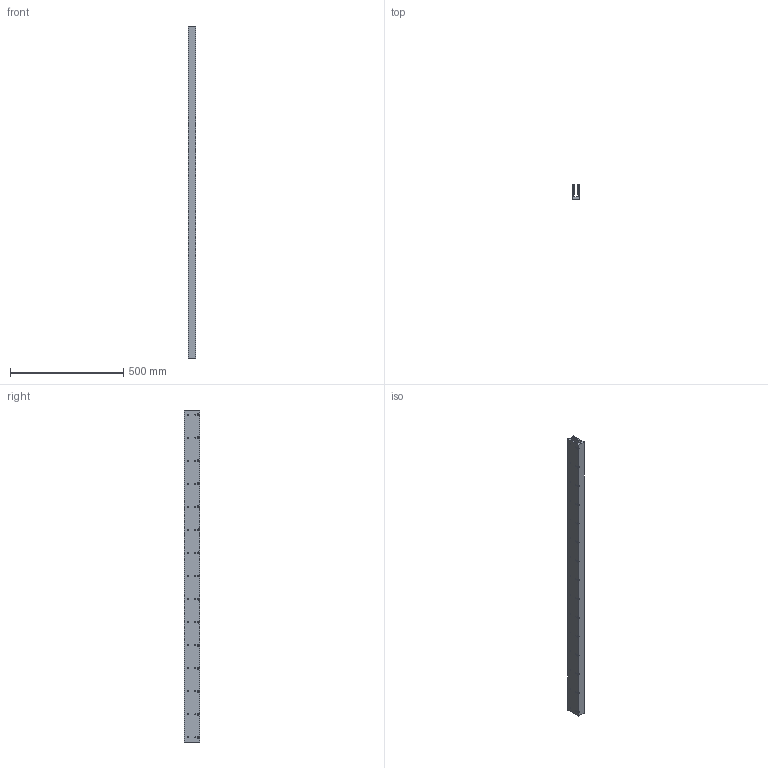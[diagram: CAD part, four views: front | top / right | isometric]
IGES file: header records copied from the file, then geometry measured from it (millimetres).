
Global section: file name: No Iges File Name specified; native system: Autodesk Inventor 2009; preprocessor: AutoDesk Inventor Iges Exporter R2009; author: je17857; date: 20091116.111737; units: inch
Bounding box: 34.29 x 67.31 x 1463.04 mm (x, y, z)
Volume: 2186581.6 mm3; surface area: 550476.9 mm2
Topology: 1 solids, 1 shells, 750 faces, 1806 edges, 1204 vertices
Faces by surface type: plane 510, bspline 240
